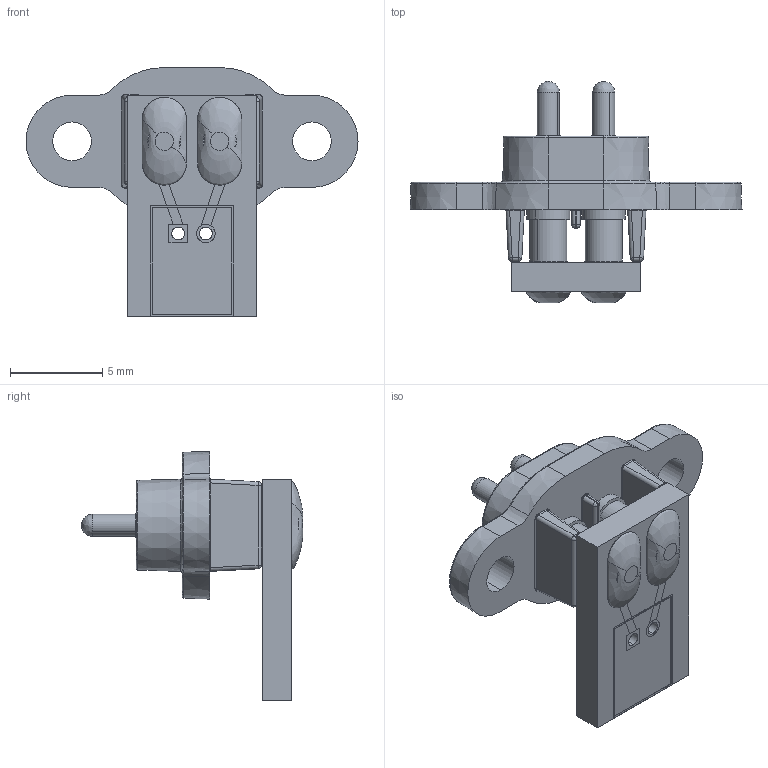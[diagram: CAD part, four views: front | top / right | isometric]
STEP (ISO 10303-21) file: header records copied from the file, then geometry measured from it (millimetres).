
FILE_DESCRIPTION (( 'STEP AP214' ), '1' );
FILE_NAME ('SWIFT DOCK MINI-2P-SC.STEP', '2021-11-11T09:26:20', ( '' ), ( '' ), 'SwSTEP 2.0', 'SolidWorks 2021', '' );
FILE_SCHEMA (( 'AUTOMOTIVE_DESIGN' ));
Length unit declared in the file: millimetre
Products named in the file (6): contact_sd_mini_1; SWIFT DOCK MINI-2P-SC; body_2 hole_mini_1; solder_large_SD mini_3; PCB_2 way_mini_3; PCB_2 way_mini_assy_PCB_1
Assembly tree (7 placements, depth 3):
  SWIFT DOCK MINI-2P-SC
    body_2 hole_mini_1
    contact_sd_mini_1  x2
    PCB_2 way_mini_assy_PCB_1
      PCB_2 way_mini_3
    solder_large_SD mini_3  x2
Bounding box: 18 x 12 x 13.5 mm (x, y, z)
Volume: 409.5 mm3; surface area: 911.5 mm2
Topology: 6 solids, 8 shells, 301 faces, 673 edges, 404 vertices
Faces by surface type: cylinder 115, plane 106, bspline 48, cone 32
Entity records: 11868 total; most frequent: CARTESIAN_POINT 3212, ORIENTED_EDGE 1186, DIRECTION 1102, EDGE_CURVE 593, AXIS2_PLACEMENT_3D 414, VERTEX_POINT 356, EDGE_LOOP 291, UNCERTAINTY_MEASURE_WITH_UNIT 275
